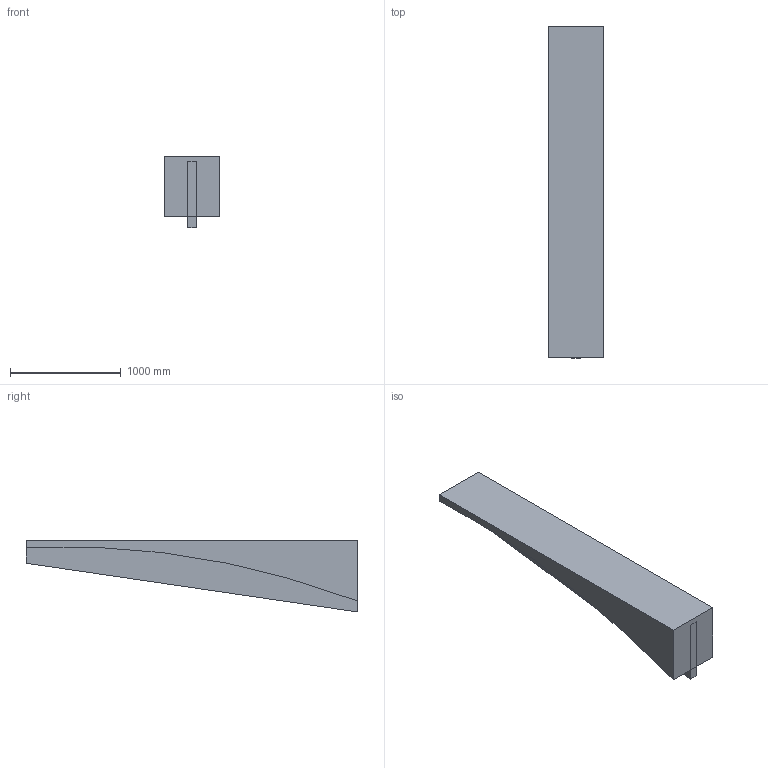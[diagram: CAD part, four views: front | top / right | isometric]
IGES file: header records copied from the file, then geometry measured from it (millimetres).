
Global section: file name: G_Ex_10_1; native system: AutoCAD 2020 - English; preprocessor: Autodesk Translation Framework DWG producer (atf_dwg_producer); organization: unknown; date: 20191114.161659; units: millimetre
Bounding box: 500 x 3000 x 650 mm (x, y, z)
Volume: 394368730.6 mm3; surface area: 7364550.8 mm2
Topology: 2 solids, 2 shells, 12 faces, 24 edges, 16 vertices
Faces by surface type: bspline 12
